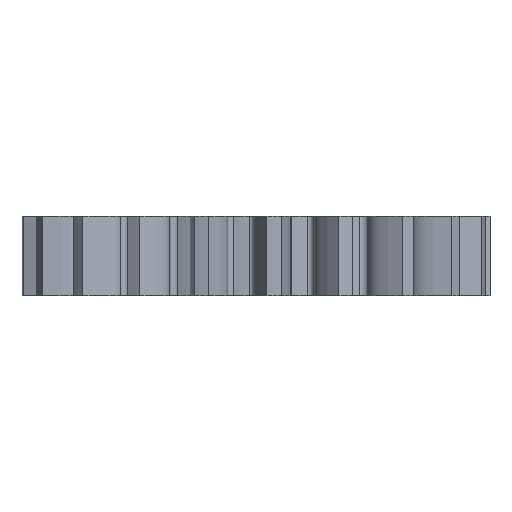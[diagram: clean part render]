
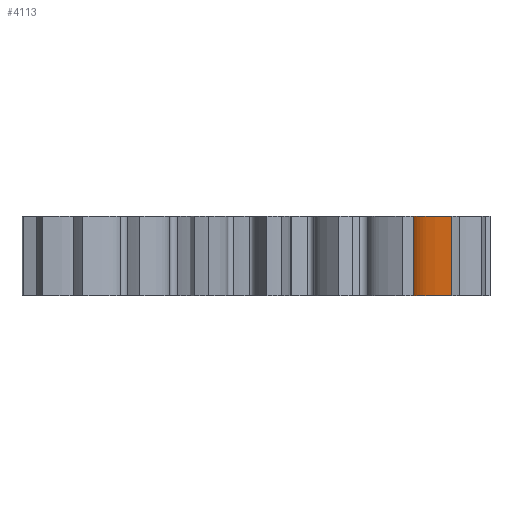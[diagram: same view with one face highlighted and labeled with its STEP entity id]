
A CAD part, left-side view. The second image highlights one B-rep face of the part: STEP entity #4113.
In plain terms, the highlighted free-form (B-spline) face has degree [3, 1] with [6, 2] control points.
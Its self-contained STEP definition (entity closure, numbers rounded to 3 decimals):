
#61 = VECTOR ( 'NONE', #2282, 1000. ) ;
#227 = CARTESIAN_POINT ( 'NONE',  ( -21.594, -29.134, 0. ) ) ;
#253 = CARTESIAN_POINT ( 'NONE',  ( -21.594, -29.134, 15. ) ) ;
#393 = CARTESIAN_POINT ( 'NONE',  ( -24.165, -36.77, 15. ) ) ;
#439 = VECTOR ( 'NONE', #3750, 1000. ) ;
#494 = VERTEX_POINT ( 'NONE', #227 ) ;
#795 = CARTESIAN_POINT ( 'NONE',  ( -23.8, -33.004, 15. ) ) ;
#806 = ORIENTED_EDGE ( 'NONE', *, *, #3170, .T. ) ;
#886 = CARTESIAN_POINT ( 'NONE',  ( -23.8, -33.004, 0. ) ) ;
#944 = CARTESIAN_POINT ( 'NONE',  ( -24.165, -36.77, 15. ) ) ;
#1068 = B_SPLINE_CURVE_WITH_KNOTS ( 'NONE', 3,
 ( #3666, #4529, #4874, #886, #4114, #1255 ),
 .UNSPECIFIED., .F., .F.,
 ( 4, 1, 1, 4 ),
 ( 0.289, 0.404, 0.617, 1. ),
 .UNSPECIFIED. ) ;
#1098 = CARTESIAN_POINT ( 'NONE',  ( -21.594, -29.134, 15. ) ) ;
#1164 = B_SPLINE_SURFACE_WITH_KNOTS ( 'NONE', 3, 1, ( 
 ( #4465, #1194 ),
 ( #2801, #2408 ),
 ( #4416, #3143 ),
 ( #795, #3249 ),
 ( #4024, #4865 ),
 ( #393, #3625 ) ),
 .UNSPECIFIED., .F., .F., .F.,
 ( 4, 1, 1, 4 ),
 ( 2, 2 ),
 ( 0.289, 0.404, 0.617, 1. ),
 ( 0., 1. ),
 .UNSPECIFIED. ) ;
#1194 = CARTESIAN_POINT ( 'NONE',  ( -21.594, -29.134, 0. ) ) ;
#1255 = CARTESIAN_POINT ( 'NONE',  ( -24.165, -36.77, 0. ) ) ;
#1378 = CARTESIAN_POINT ( 'NONE',  ( -21.594, -29.134, 15. ) ) ;
#1585 = FACE_OUTER_BOUND ( 'NONE', #4082, .T. ) ;
#1677 = LINE ( 'NONE', #944, #439 ) ;
#1793 = CARTESIAN_POINT ( 'NONE',  ( -24.165, -36.77, 15. ) ) ;
#2159 = CARTESIAN_POINT ( 'NONE',  ( -24.165, -36.77, 15. ) ) ;
#2282 = DIRECTION ( 'NONE',  ( 0., 0., -1. ) ) ;
#2341 = VERTEX_POINT ( 'NONE', #4706 ) ;
#2408 = CARTESIAN_POINT ( 'NONE',  ( -21.954, -29.409, 0. ) ) ;
#2606 = CARTESIAN_POINT ( 'NONE',  ( -21.954, -29.409, 15. ) ) ;
#2662 = CARTESIAN_POINT ( 'NONE',  ( -24.022, -35.297, 15. ) ) ;
#2765 = B_SPLINE_CURVE_WITH_KNOTS ( 'NONE', 3,
 ( #253, #2606, #3484, #4593, #2662, #2159 ),
 .UNSPECIFIED., .F., .F.,
 ( 4, 1, 1, 4 ),
 ( 0.289, 0.404, 0.617, 1. ),
 .UNSPECIFIED. ) ;
#2791 = EDGE_CURVE ( 'NONE', #3507, #3994, #2765, .T. ) ;
#2801 = CARTESIAN_POINT ( 'NONE',  ( -21.954, -29.409, 15. ) ) ;
#2811 = ORIENTED_EDGE ( 'NONE', *, *, #4601, .F. ) ;
#2993 = EDGE_CURVE ( 'NONE', #494, #2341, #1068, .T. ) ;
#3042 = LINE ( 'NONE', #1098, #61 ) ;
#3143 = CARTESIAN_POINT ( 'NONE',  ( -22.883, -30.296, 0. ) ) ;
#3170 = EDGE_CURVE ( 'NONE', #3507, #494, #3042, .T. ) ;
#3249 = CARTESIAN_POINT ( 'NONE',  ( -23.8, -33.004, 0. ) ) ;
#3484 = CARTESIAN_POINT ( 'NONE',  ( -22.883, -30.296, 15. ) ) ;
#3507 = VERTEX_POINT ( 'NONE', #1378 ) ;
#3625 = CARTESIAN_POINT ( 'NONE',  ( -24.165, -36.77, 0. ) ) ;
#3666 = CARTESIAN_POINT ( 'NONE',  ( -21.594, -29.134, 0. ) ) ;
#3706 = ORIENTED_EDGE ( 'NONE', *, *, #2791, .F. ) ;
#3750 = DIRECTION ( 'NONE',  ( 0., 0., -1. ) ) ;
#3994 = VERTEX_POINT ( 'NONE', #1793 ) ;
#4024 = CARTESIAN_POINT ( 'NONE',  ( -24.022, -35.297, 15. ) ) ;
#4082 = EDGE_LOOP ( 'NONE', ( #3706, #806, #4779, #2811 ) ) ;
#4113 = ADVANCED_FACE ( 'NONE', ( #1585 ), #1164, .F. ) ;
#4114 = CARTESIAN_POINT ( 'NONE',  ( -24.022, -35.297, 0. ) ) ;
#4416 = CARTESIAN_POINT ( 'NONE',  ( -22.883, -30.296, 15. ) ) ;
#4465 = CARTESIAN_POINT ( 'NONE',  ( -21.594, -29.134, 15. ) ) ;
#4529 = CARTESIAN_POINT ( 'NONE',  ( -21.954, -29.409, 0. ) ) ;
#4593 = CARTESIAN_POINT ( 'NONE',  ( -23.8, -33.004, 15. ) ) ;
#4601 = EDGE_CURVE ( 'NONE', #3994, #2341, #1677, .T. ) ;
#4706 = CARTESIAN_POINT ( 'NONE',  ( -24.165, -36.77, 0. ) ) ;
#4779 = ORIENTED_EDGE ( 'NONE', *, *, #2993, .T. ) ;
#4865 = CARTESIAN_POINT ( 'NONE',  ( -24.022, -35.297, 0. ) ) ;
#4874 = CARTESIAN_POINT ( 'NONE',  ( -22.883, -30.296, 0. ) ) ;
